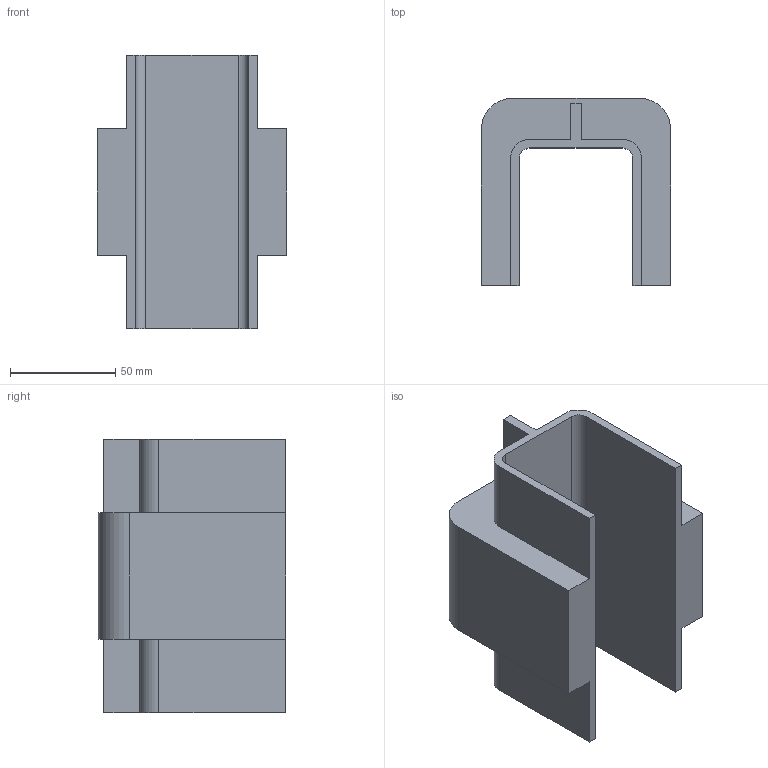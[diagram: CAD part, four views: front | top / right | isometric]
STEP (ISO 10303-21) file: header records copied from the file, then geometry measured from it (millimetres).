
FILE_DESCRIPTION (( 'STEP AP203' ), '1' );
FILE_NAME ('900.501.040.STEP', '2018-03-09T13:07:44', ( '' ), ( '' ), 'SwSTEP 2.0', 'SolidWorks 2016', '' );
FILE_SCHEMA (( 'CONFIG_CONTROL_DESIGN' ));
Length unit declared in the file: millimetre
Products named in the file (1): 900.501.040
Bounding box: 90 x 89 x 130 mm (x, y, z)
Volume: 323424.3 mm3; surface area: 66180.6 mm2
Topology: 1 solids, 1 shells, 34 faces, 96 edges, 64 vertices
Faces by surface type: plane 26, cylinder 8
Entity records: 1173 total; most frequent: CARTESIAN_POINT 195, ORIENTED_EDGE 192, DIRECTION 182, EDGE_CURVE 96, VECTOR 80, LINE 80, VERTEX_POINT 64, AXIS2_PLACEMENT_3D 51
